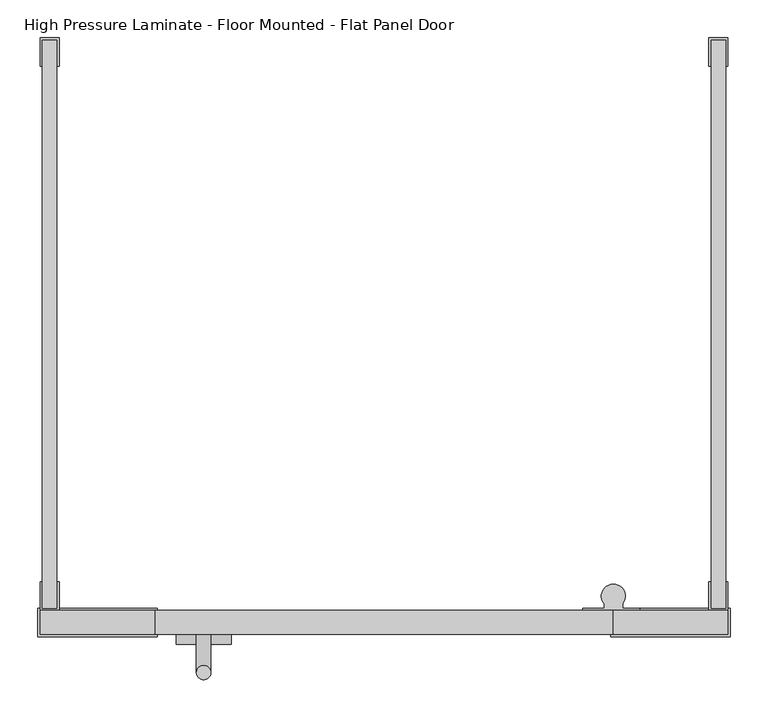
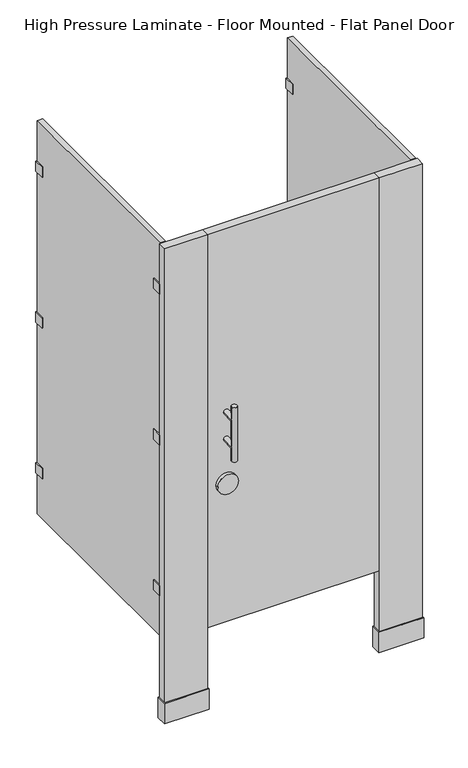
"""IFC4 building model written with IfcOpenShell, lengths in millimetres: proxy geometry, Toilet-Partition_Ironwood-Mfg_High-Pressure-Laminate : High Pressure Laminate - Floor Mounted - Flat Panel Door."""

from ifc_helpers import new_model, si_unit, point, frame, frame_2d, origin, origin_with_axes, place, context, project, spatial, polyline, circle_curve, ellipse_curve, trimmed, segment, composite_curve, outline, extrude, source, transform, mapped, element, save
from ifc_brep_helpers import plane_surface, cylinder_surface, advanced_brep


def high_pressure_laminate_floor_mounted_flat_panel_door_f86224eb(model_context):
    return source(origin(), model_context, "Body", "SolidModel", [
        extrude(outline(polyline([(701.675, -758.825), (701.675, -796.925), (542.925, -796.925), (542.925, -758.825), (701.675, -758.825)])), origin_with_axes(), (0.0, 0.0, 1.0), 76.2),
        extrude(outline(polyline([(698.5, -762.0), (698.5, -793.75), (546.1, -793.75), (546.1, -762.0), (698.5, -762.0)])), origin_with_axes(), (0.0, 0.0, 1.0), 1778.0),
        extrude(outline(polyline([(-219.075, -758.825), (-60.325, -758.825), (-60.325, -796.925), (-219.075, -796.925), (-219.075, -758.825)])), origin_with_axes(), (0.0, 0.0, 1.0), 76.2),
        extrude(outline(polyline([(-215.9, -762.0), (-63.5, -762.0), (-63.5, -793.75), (-215.9, -793.75), (-215.9, -762.0)])), origin_with_axes(), (0.0, 0.0, 1.0), 1778.0),
        extrude(outline(polyline([(546.1, -793.75), (-63.5, -793.75), (-63.5, -762.0), (546.1, -762.0), (546.1, -793.75)])), frame((0.0, 0.0, 304.8), z_axis=(0.0, 0.0, 1.0), x_axis=(1.0, 0.0, 0.0)), (0.0, 0.0, 1.0), 1473.2),
        extrude(outline(composite_curve([segment(trimmed(circle_curve(frame_2d((827.0875, 1.5875)), 36.5125), [point((827.0875, -34.925))], [point((827.0875, 38.1))], False, "CARTESIAN"), True, "CONTINUOUS"), segment(trimmed(circle_curve(frame_2d((827.0875, 1.5875)), 36.5125), [point((827.0875, 38.1))], [point((827.0875, -34.925))], False, "CARTESIAN"), True, "CONTINUOUS")], self_intersect=False)), frame((0.0, -806.45, 0.0), z_axis=(0.0, 1.0, 0.0), x_axis=(0.0, 0.0, 1.0)), (0.0, 0.0, 1.0), 12.7),
        advanced_brep(
        [(-7.9375, -793.75, 1092.2), (11.1125, -793.75, 1092.2), (-7.9375, -793.75, 990.6), (11.1125, -793.75, 990.6), (11.1125, -844.55, 1092.2), (-7.9375, -844.55, 1092.2), (11.1125, -844.55, 990.6), (-7.9375, -844.55, 990.6), (-7.9375, -844.55, 1143.0), (11.1125, -844.55, 1143.0), (-7.9375, -844.55, 939.8), (11.1125, -844.55, 939.8)],
        [
            (0, 1, circle_curve(frame((1.5875, -793.75, 1092.2), z_axis=(0.0, 1.0, 0.0), x_axis=(1.0, 0.0, 0.0)), 9.525)),
            (1, 0, circle_curve(frame((1.5875, -793.75, 1092.2), z_axis=(0.0, 1.0, 0.0), x_axis=(1.0, 0.0, 0.0)), 9.525)),
            (2, 3, circle_curve(frame((1.5875, -793.75, 990.6), z_axis=(0.0, 1.0, 0.0), x_axis=(1.0, 0.0, 0.0)), 9.525)),
            (3, 2, circle_curve(frame((1.5875, -793.75, 990.6), z_axis=(0.0, 1.0, 0.0), x_axis=(1.0, 0.0, 0.0)), 9.525)),
            (1, 4),
            (4, 5, ellipse_curve(frame((1.5875, -844.55, 1092.2), z_axis=(0.0, 0.7071067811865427, 0.7071067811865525), x_axis=(0.0, -0.7071067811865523, 0.7071067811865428)), 13.4703842, 9.525)),
            (5, 0),
            (5, 4, ellipse_curve(frame((1.5875, -844.55, 1092.2), z_axis=(0.0, 0.7071067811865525, -0.7071067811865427), x_axis=(0.0, -0.7071067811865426, -0.7071067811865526)), 13.4703842, 9.525)),
            (3, 6),
            (6, 7, ellipse_curve(frame((1.5875, -844.55, 990.6), z_axis=(0.0, 0.7071067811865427, 0.7071067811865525), x_axis=(0.0, -0.7071067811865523, 0.7071067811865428)), 13.4703842, 9.525)),
            (7, 2),
            (7, 6, ellipse_curve(frame((1.5875, -844.55, 990.6), z_axis=(0.0, 0.7071067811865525, -0.7071067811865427), x_axis=(0.0, -0.7071067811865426, -0.7071067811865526)), 13.4703842, 9.525)),
            (8, 9, circle_curve(frame((1.5875, -844.55, 1143.0), z_axis=(0.0, 0.0, 1.0), x_axis=(1.0, 0.0, 0.0)), 9.525)),
            (9, 8, circle_curve(frame((1.5875, -844.55, 1143.0), z_axis=(0.0, 0.0, 1.0), x_axis=(1.0, 0.0, 0.0)), 9.525)),
            (10, 11, circle_curve(frame((1.5875, -844.55, 939.8), z_axis=(0.0, 0.0, -1.0), x_axis=(1.0, 0.0, 0.0)), 9.525)),
            (11, 10, circle_curve(frame((1.5875, -844.55, 939.8), z_axis=(0.0, 0.0, -1.0), x_axis=(1.0, 0.0, 0.0)), 9.525)),
            (8, 5),
            (5, 7),
            (7, 10),
            (11, 6),
            (6, 4),
            (4, 9),
        ],
        [
            plane_surface(frame((11.1125, -793.75, 1092.2), z_axis=(0.0, 1.0, 0.0), x_axis=(0.0, 0.0, -1.0))),
            cylinder_surface(frame((1.5875, -793.75, 1092.2), z_axis=(0.0, -1.0, 0.0), x_axis=(1.0, 0.0, 0.0)), 9.525),
            cylinder_surface(frame((1.5875, -793.75, 990.6), z_axis=(0.0, -1.0, 0.0), x_axis=(1.0, 0.0, 0.0)), 9.525),
            plane_surface(frame((11.1125, -844.55, 1143.0), z_axis=(0.0, 0.0, 1.0), x_axis=(0.0, 1.0, 0.0))),
            plane_surface(frame((11.1125, -844.55, 939.8), z_axis=(0.0, 0.0, -1.0), x_axis=(0.0, -1.0, 0.0))),
            cylinder_surface(frame((1.5875, -844.55, 939.8), z_axis=(0.0, 0.0, 1.0), x_axis=(1.0, 0.0, 0.0)), 9.525),
        ],
        [
            (0, [[1, 2]]),
            (0, [[3, 4]]),
            (1, [[-2, 5, 6, 7]]),
            (1, [[-1, -7, 8, -5]]),
            (2, [[-4, 9, 10, 11]]),
            (2, [[-3, -11, 12, -9]]),
            (3, [[13, 14]]),
            (4, [[15, 16]]),
            (5, [[-13, 17, 18, 19, -16, 20, 21, 22]]),
            (5, [[-14, -22, -8, -17]]),
            (5, [[-15, -19, -10, -20]]),
            (5, [[-18, -6, -21, -12]]),
        ],
    ),
        extrude(outline(composite_curve([segment(polyline([(581.3737081, -762.0), (505.1737081, -762.0), (505.1737081, -758.825), (533.7487081, -758.825), (533.7487081, -752.9581331)]), True, "CONTINUOUS"), segment(trimmed(circle_curve(frame_2d((546.1, -742.8902139)), 15.9347861), [point((533.7487081, -752.9581331))], [point((558.4512919, -752.9581331))], False, "CARTESIAN"), True, "CONTINUOUS"), segment(polyline([(558.4512919, -752.9581331), (558.4512919, -758.825), (581.3737081, -758.825), (581.3737081, -762.0)]), True, "CONTINUOUS")], self_intersect=False)), frame((0.0, 0.0, 1574.8), z_axis=(0.0, 0.0, 1.0), x_axis=(1.0, 0.0, 0.0)), (0.0, 0.0, 1.0), 63.5),
        extrude(outline(composite_curve([segment(polyline([(581.3737081, -762.0), (505.1737081, -762.0), (505.1737081, -758.825), (533.7487081, -758.825), (533.7487081, -752.9581331)]), True, "CONTINUOUS"), segment(trimmed(circle_curve(frame_2d((546.1, -742.8902139)), 15.9347861), [point((533.7487081, -752.9581331))], [point((558.4512919, -752.9581331))], False, "CARTESIAN"), True, "CONTINUOUS"), segment(polyline([(558.4512919, -752.9581331), (558.4512919, -758.825), (581.3737081, -758.825), (581.3737081, -762.0)]), True, "CONTINUOUS")], self_intersect=False)), frame((0.0, 0.0, 1009.6500001), z_axis=(0.0, 0.0, 1.0), x_axis=(1.0, 0.0, 0.0)), (0.0, 0.0, 1.0), 63.5),
        extrude(outline(composite_curve([segment(polyline([(581.3737081, -762.0), (505.1737081, -762.0), (505.1737081, -758.825), (533.7487081, -758.825), (533.7487081, -752.9581331)]), True, "CONTINUOUS"), segment(trimmed(circle_curve(frame_2d((546.1, -742.8902139)), 15.9347861), [point((533.7487081, -752.9581331))], [point((558.4512919, -752.9581331))], False, "CARTESIAN"), True, "CONTINUOUS"), segment(polyline([(558.4512919, -752.9581331), (558.4512919, -758.825), (581.3737081, -758.825), (581.3737081, -762.0)]), True, "CONTINUOUS")], self_intersect=False)), frame((0.0, 0.0, 444.5), z_axis=(0.0, 0.0, 1.0), x_axis=(1.0, 0.0, 0.0)), (0.0, 0.0, 1.0), 63.5),
        extrude(outline(polyline([(676.148, -723.9), (676.148, -758.825), (695.198, -758.825), (695.198, -723.9), (698.373, -723.9), (698.373, -762.0), (672.973, -762.0), (672.973, -723.9), (676.148, -723.9)])), frame((0.0, 0.0, 1587.8188137), z_axis=(0.0, 0.0, 1.0), x_axis=(1.0, 0.0, 0.0)), (0.0, 0.0, 1.0), 38.1),
        extrude(outline(polyline([(676.148, -38.1), (672.973, -38.1), (672.973, 0.0), (698.373, 0.0), (698.373, -38.1), (695.198, -38.1), (695.198, -3.175), (676.148, -3.175), (676.148, -38.1)])), frame((0.0, 0.0, 1587.8188137), z_axis=(0.0, 0.0, 1.0), x_axis=(1.0, 0.0, 0.0)), (0.0, 0.0, 1.0), 38.1),
        extrude(outline(polyline([(676.148, -723.9), (676.148, -758.825), (695.198, -758.825), (695.198, -723.9), (698.373, -723.9), (698.373, -762.0), (672.973, -762.0), (672.973, -723.9), (676.148, -723.9)])), frame((0.0, 0.0, 1022.35), z_axis=(0.0, 0.0, 1.0), x_axis=(1.0, 0.0, 0.0)), (0.0, 0.0, 1.0), 38.1),
        extrude(outline(polyline([(676.148, -38.1), (672.973, -38.1), (672.973, 0.0), (698.373, 0.0), (698.373, -38.1), (695.198, -38.1), (695.198, -3.175), (676.148, -3.175), (676.148, -38.1)])), frame((0.0, 0.0, 1022.35), z_axis=(0.0, 0.0, 1.0), x_axis=(1.0, 0.0, 0.0)), (0.0, 0.0, 1.0), 38.1),
        extrude(outline(polyline([(676.148, -723.9), (676.148, -758.825), (695.198, -758.825), (695.198, -723.9), (698.373, -723.9), (698.373, -762.0), (672.973, -762.0), (672.973, -723.9), (676.148, -723.9)])), frame((0.0, 0.0, 457.2), z_axis=(0.0, 0.0, 1.0), x_axis=(1.0, 0.0, 0.0)), (0.0, 0.0, 1.0), 38.1),
        extrude(outline(polyline([(676.148, -38.1), (672.973, -38.1), (672.973, 0.0), (698.373, 0.0), (698.373, -38.1), (695.198, -38.1), (695.198, -3.175), (676.148, -3.175), (676.148, -38.1)])), frame((0.0, 0.0, 457.2), z_axis=(0.0, 0.0, 1.0), x_axis=(1.0, 0.0, 0.0)), (0.0, 0.0, 1.0), 38.1),
        extrude(outline(polyline([(-212.598, -723.9), (-212.598, -758.825), (-193.548, -758.825), (-193.548, -723.9), (-190.373, -723.9), (-190.373, -762.0), (-215.773, -762.0), (-215.773, -723.9), (-212.598, -723.9)])), frame((0.0, 0.0, 1587.8188137), z_axis=(0.0, 0.0, 1.0), x_axis=(1.0, 0.0, 0.0)), (0.0, 0.0, 1.0), 38.1),
        extrude(outline(polyline([(-212.598, -38.1), (-215.773, -38.1), (-215.773, 0.0), (-190.373, 0.0), (-190.373, -38.1), (-193.548, -38.1), (-193.548, -3.175), (-212.598, -3.175), (-212.598, -38.1)])), frame((0.0, 0.0, 1587.8188137), z_axis=(0.0, 0.0, 1.0), x_axis=(1.0, 0.0, 0.0)), (0.0, 0.0, 1.0), 38.1),
        extrude(outline(polyline([(-212.598, -723.9), (-212.598, -758.825), (-193.548, -758.825), (-193.548, -723.9), (-190.373, -723.9), (-190.373, -762.0), (-215.773, -762.0), (-215.773, -723.9), (-212.598, -723.9)])), frame((0.0, 0.0, 1022.35), z_axis=(0.0, 0.0, 1.0), x_axis=(1.0, 0.0, 0.0)), (0.0, 0.0, 1.0), 38.1),
        extrude(outline(polyline([(-212.598, -38.1), (-215.773, -38.1), (-215.773, 0.0), (-190.373, 0.0), (-190.373, -38.1), (-193.548, -38.1), (-193.548, -3.175), (-212.598, -3.175), (-212.598, -38.1)])), frame((0.0, 0.0, 1022.35), z_axis=(0.0, 0.0, 1.0), x_axis=(1.0, 0.0, 0.0)), (0.0, 0.0, 1.0), 38.1),
        extrude(outline(polyline([(-212.598, -723.9), (-212.598, -758.825), (-193.548, -758.825), (-193.548, -723.9), (-190.373, -723.9), (-190.373, -762.0), (-215.773, -762.0), (-215.773, -723.9), (-212.598, -723.9)])), frame((0.0, 0.0, 457.2), z_axis=(0.0, 0.0, 1.0), x_axis=(1.0, 0.0, 0.0)), (0.0, 0.0, 1.0), 38.1),
        extrude(outline(polyline([(-212.598, -38.1), (-215.773, -38.1), (-215.773, 0.0), (-190.373, 0.0), (-190.373, -38.1), (-193.548, -38.1), (-193.548, -3.175), (-212.598, -3.175), (-212.598, -38.1)])), frame((0.0, 0.0, 457.2), z_axis=(0.0, 0.0, 1.0), x_axis=(1.0, 0.0, 0.0)), (0.0, 0.0, 1.0), 38.1),
        extrude(outline(polyline([(-193.548, -3.175), (-193.548, -758.825), (-212.598, -758.825), (-212.598, -3.175), (-193.548, -3.175)])), frame((0.0, 0.0, 304.8), z_axis=(0.0, 0.0, 1.0), x_axis=(1.0, 0.0, 0.0)), (0.0, 0.0, 1.0), 1473.2),
        extrude(outline(polyline([(695.198, -3.175), (695.198, -758.825), (676.148, -758.825), (676.148, -3.175), (695.198, -3.175)])), frame((0.0, 0.0, 304.8), z_axis=(0.0, 0.0, 1.0), x_axis=(1.0, 0.0, 0.0)), (0.0, 0.0, 1.0), 1473.2),
    ])


if __name__ == "__main__":
    model = new_model("IFC4")
    model_context = context("Model", 3, world=origin())
    ifc_project = project(units=[si_unit("LENGTHUNIT", "METRE", prefix="MILLI")], contexts=[model_context])
    site = spatial("IfcSite", under=ifc_project)
    building = spatial("IfcBuilding", under=site)
    placement = place(None, origin())
    high_pressure_laminate_floor_mounted_flat_panel_door_shape = high_pressure_laminate_floor_mounted_flat_panel_door_f86224eb(model_context)
    element("IfcBuildingElementProxy", 1, Name="Toilet-Partition_Ironwood-Mfg_High-Pressure-Laminate : High Pressure Laminate - Floor Mounted - Flat Panel Door", ObjectType="Toilet-Partition_Ironwood-Mfg_High-Pressure-Laminate : High Pressure Laminate - Floor Mounted - Flat Panel Door", at=placement, inside=building, context=model_context, shape_type="MappedRepresentation", body=[
        mapped(high_pressure_laminate_floor_mounted_flat_panel_door_shape, transform((0.0, 0.0, 0.0), x_axis=(1.0, 0.0, 0.0), y_axis=(0.0, 1.0, 0.0), z_axis=(0.0, 0.0, 1.0))),
    ])
    save(model, "model.ifc")
